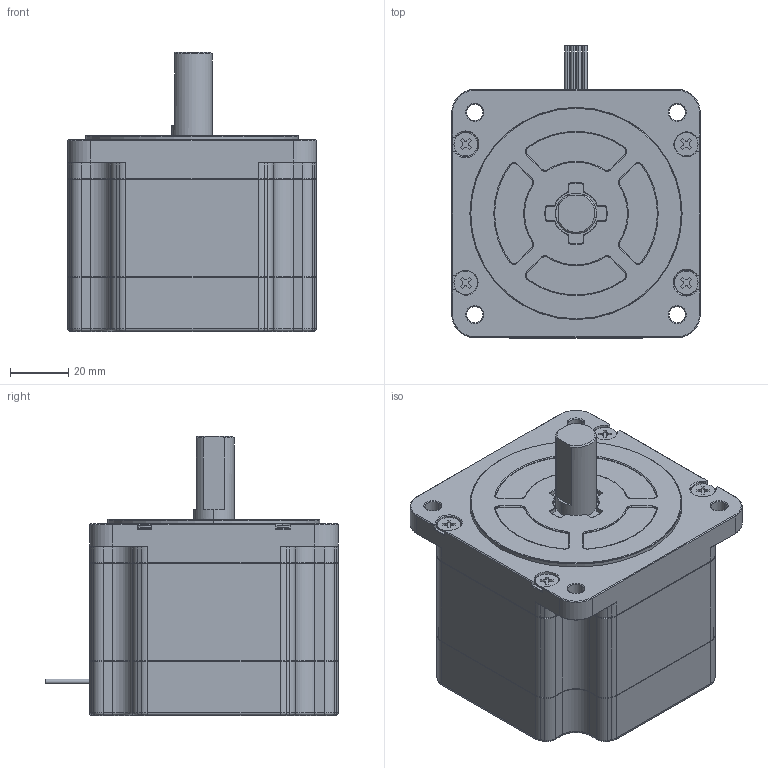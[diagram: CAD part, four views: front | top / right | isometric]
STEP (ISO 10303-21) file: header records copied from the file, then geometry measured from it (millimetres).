
FILE_DESCRIPTION (( 'STEP AP203' ), '1' );
FILE_NAME ('SH2861-5141.STEP', '2012-06-27T11:38:45', ( 'sanyodenki-admin' ), ( '' ), 'SwSTEP 2.0', 'SolidWorks 2011', '' );
FILE_SCHEMA (( 'CONFIG_CONTROL_DESIGN' ));
Length unit declared in the file: millimetre
Products named in the file (1): SH2861-5141
Bounding box: 85.5 x 100.5 x 96 mm (x, y, z)
Volume: 439567 mm3; surface area: 38003.4 mm2
Topology: 1 solids, 1 shells, 664 faces, 1653 edges, 1009 vertices
Faces by surface type: cylinder 242, plane 222, cone 140, torus 60
Entity records: 19783 total; most frequent: DIRECTION 3696, CARTESIAN_POINT 3387, ORIENTED_EDGE 3306, EDGE_CURVE 1653, AXIS2_PLACEMENT_3D 1398, VERTEX_POINT 1009, VECTOR 900, LINE 900
